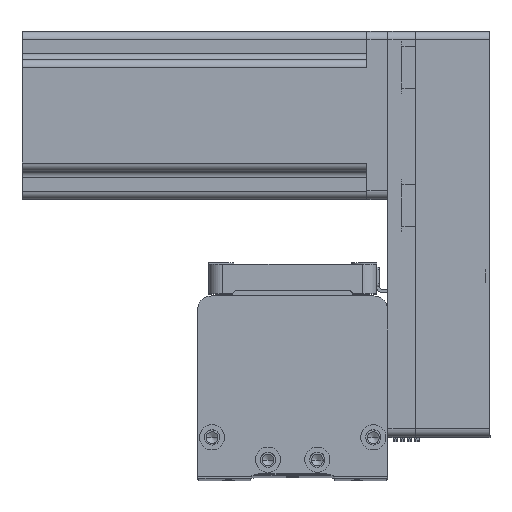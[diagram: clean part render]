
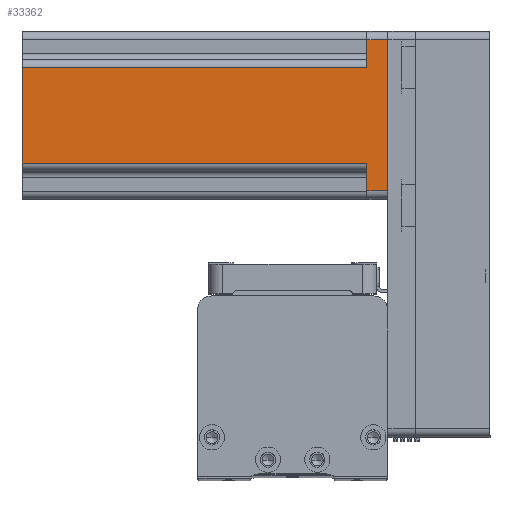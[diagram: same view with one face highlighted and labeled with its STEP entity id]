
A CAD part, top view. The second image highlights one B-rep face of the part: STEP entity #33362.
In plain terms, the highlighted planar face has unit normal (0, 0, 1) as drawn and (0, -1, 0) by its records, which use the part's own axes.
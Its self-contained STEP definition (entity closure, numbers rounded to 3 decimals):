
#462 = VERTEX_POINT ( 'NONE', #34306 ) ;
#2438 = DIRECTION ( 'NONE',  ( 0., 0., -1. ) ) ;
#2451 = ORIENTED_EDGE ( 'NONE', *, *, #29145, .F. ) ;
#2798 = CARTESIAN_POINT ( 'NONE',  ( 27., -30., 130.7 ) ) ;
#4347 = ORIENTED_EDGE ( 'NONE', *, *, #24857, .T. ) ;
#4818 = EDGE_LOOP ( 'NONE', ( #2451, #40256, #38341, #4347, #42825, #37241, #37563, #35594 ) ) ;
#4876 = CARTESIAN_POINT ( 'NONE',  ( 30., -30., 130.7 ) ) ;
#5072 = VERTEX_POINT ( 'NONE', #10599 ) ;
#5174 = CARTESIAN_POINT ( 'NONE',  ( -17., -30., 7.5 ) ) ;
#5843 = EDGE_CURVE ( 'NONE', #41938, #5072, #39338, .T. ) ;
#5955 = AXIS2_PLACEMENT_3D ( 'NONE', #4876, #28710, #8333 ) ;
#6605 = DIRECTION ( 'NONE',  ( 1., 0., 0. ) ) ;
#8333 = DIRECTION ( 'NONE',  ( -1., 0., 0. ) ) ;
#8438 = LINE ( 'NONE', #28659, #43618 ) ;
#8501 = CARTESIAN_POINT ( 'NONE',  ( -17., -30., 130.7 ) ) ;
#9884 = VERTEX_POINT ( 'NONE', #17668 ) ;
#10433 = EDGE_CURVE ( 'NONE', #9884, #24624, #31941, .T. ) ;
#10599 = CARTESIAN_POINT ( 'NONE',  ( 17., -30., 7.5 ) ) ;
#10662 = LINE ( 'NONE', #40713, #36784 ) ;
#12259 = VECTOR ( 'NONE', #34114, 1000. ) ;
#13758 = CARTESIAN_POINT ( 'NONE',  ( 27., -30., 7.5 ) ) ;
#15719 = VECTOR ( 'NONE', #2438, 1000. ) ;
#17152 = CARTESIAN_POINT ( 'NONE',  ( 30., -30., 130.7 ) ) ;
#17645 = VECTOR ( 'NONE', #23208, 1000. ) ;
#17668 = CARTESIAN_POINT ( 'NONE',  ( -27., -30., 0. ) ) ;
#17954 = EDGE_CURVE ( 'NONE', #5072, #462, #10662, .T. ) ;
#18719 = LINE ( 'NONE', #2798, #17645 ) ;
#20471 = EDGE_CURVE ( 'NONE', #31229, #31632, #42939, .T. ) ;
#22312 = VECTOR ( 'NONE', #38164, 1000. ) ;
#23208 = DIRECTION ( 'NONE',  ( 0., 0., 1. ) ) ;
#24624 = VERTEX_POINT ( 'NONE', #36019 ) ;
#24857 = EDGE_CURVE ( 'NONE', #31206, #9884, #25526, .T. ) ;
#25086 = EDGE_CURVE ( 'NONE', #31206, #31632, #8438, .T. ) ;
#25481 = CARTESIAN_POINT ( 'NONE',  ( -27., -30., 7.5 ) ) ;
#25526 = LINE ( 'NONE', #40654, #42617 ) ;
#28425 = FACE_OUTER_BOUND ( 'NONE', #4818, .T. ) ;
#28659 = CARTESIAN_POINT ( 'NONE',  ( -20., -30., 7.5 ) ) ;
#28710 = DIRECTION ( 'NONE',  ( 0., 1., 0. ) ) ;
#29145 = EDGE_CURVE ( 'NONE', #31229, #462, #38851, .T. ) ;
#30547 = DIRECTION ( 'NONE',  ( 0., 0., 1. ) ) ;
#30857 = VECTOR ( 'NONE', #6605, 1000. ) ;
#31206 = VERTEX_POINT ( 'NONE', #25481 ) ;
#31229 = VERTEX_POINT ( 'NONE', #8501 ) ;
#31632 = VERTEX_POINT ( 'NONE', #5174 ) ;
#31941 = LINE ( 'NONE', #37433, #30857 ) ;
#32092 = DIRECTION ( 'NONE',  ( 1., 0., 0. ) ) ;
#33112 = CARTESIAN_POINT ( 'NONE',  ( -17., -30., 130.7 ) ) ;
#33362 = ADVANCED_FACE ( 'NONE', ( #28425 ), #35411, .F. ) ;
#34114 = DIRECTION ( 'NONE',  ( 1., 0., 0. ) ) ;
#34306 = CARTESIAN_POINT ( 'NONE',  ( 17., -30., 130.7 ) ) ;
#34734 = CARTESIAN_POINT ( 'NONE',  ( 20., -30., 7.5 ) ) ;
#35411 = PLANE ( 'NONE',  #5955 ) ;
#35594 = ORIENTED_EDGE ( 'NONE', *, *, #17954, .T. ) ;
#36019 = CARTESIAN_POINT ( 'NONE',  ( 27., -30., 0. ) ) ;
#36784 = VECTOR ( 'NONE', #30547, 1000. ) ;
#37241 = ORIENTED_EDGE ( 'NONE', *, *, #38617, .T. ) ;
#37433 = CARTESIAN_POINT ( 'NONE',  ( 30., -30., 0. ) ) ;
#37563 = ORIENTED_EDGE ( 'NONE', *, *, #5843, .T. ) ;
#38164 = DIRECTION ( 'NONE',  ( -1., 0., 0. ) ) ;
#38341 = ORIENTED_EDGE ( 'NONE', *, *, #25086, .F. ) ;
#38617 = EDGE_CURVE ( 'NONE', #24624, #41938, #18719, .T. ) ;
#38851 = LINE ( 'NONE', #17152, #12259 ) ;
#39338 = LINE ( 'NONE', #34734, #22312 ) ;
#40256 = ORIENTED_EDGE ( 'NONE', *, *, #20471, .T. ) ;
#40654 = CARTESIAN_POINT ( 'NONE',  ( -27., -30., 130.7 ) ) ;
#40713 = CARTESIAN_POINT ( 'NONE',  ( 17., -30., 130.7 ) ) ;
#41938 = VERTEX_POINT ( 'NONE', #13758 ) ;
#42617 = VECTOR ( 'NONE', #44059, 1000. ) ;
#42825 = ORIENTED_EDGE ( 'NONE', *, *, #10433, .T. ) ;
#42939 = LINE ( 'NONE', #33112, #15719 ) ;
#43618 = VECTOR ( 'NONE', #32092, 1000. ) ;
#44059 = DIRECTION ( 'NONE',  ( 0., 0., -1. ) ) ;
